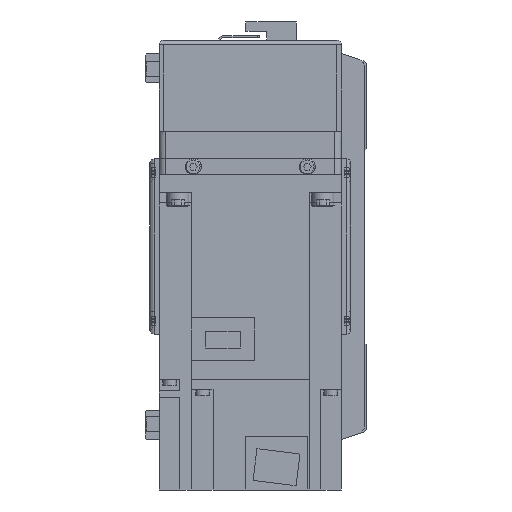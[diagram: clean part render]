
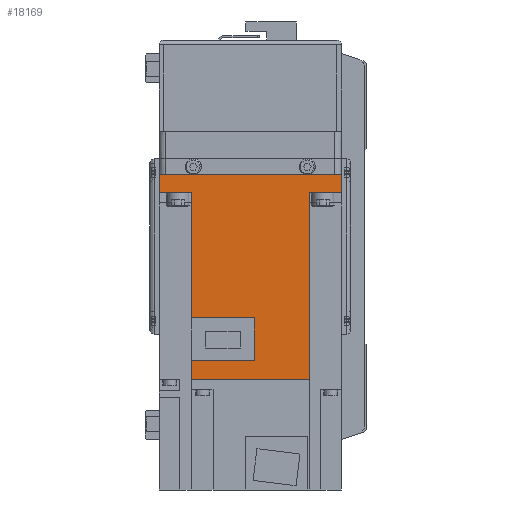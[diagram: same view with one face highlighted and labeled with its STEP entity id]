
A CAD part, left-side view. The second image highlights one B-rep face of the part: STEP entity #18169.
In plain terms, the highlighted planar face has unit normal (-1, 0, 0) as drawn and (1, 0, 0) by its records, which use the part's own axes.
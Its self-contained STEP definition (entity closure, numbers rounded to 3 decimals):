
#2017=ORIENTED_EDGE('',*,*,#7005,.F.);
#2018=ORIENTED_EDGE('',*,*,#7006,.F.);
#2019=ORIENTED_EDGE('',*,*,#7007,.F.);
#2020=ORIENTED_EDGE('',*,*,#7008,.T.);
#2021=ORIENTED_EDGE('',*,*,#7009,.F.);
#2022=ORIENTED_EDGE('',*,*,#7010,.T.);
#2023=ORIENTED_EDGE('',*,*,#7011,.T.);
#2024=ORIENTED_EDGE('',*,*,#7012,.F.);
#2025=ORIENTED_EDGE('',*,*,#7013,.F.);
#2026=ORIENTED_EDGE('',*,*,#7014,.F.);
#2027=ORIENTED_EDGE('',*,*,#7015,.F.);
#2028=ORIENTED_EDGE('',*,*,#7016,.F.);
#7005=EDGE_CURVE('',#9559,#9560,#11365,.T.);
#7006=EDGE_CURVE('',#9561,#9559,#11366,.T.);
#7007=EDGE_CURVE('',#9562,#9561,#11367,.T.);
#7008=EDGE_CURVE('',#9562,#9563,#11368,.T.);
#7009=EDGE_CURVE('',#9564,#9563,#11369,.T.);
#7010=EDGE_CURVE('',#9564,#9565,#11370,.T.);
#7011=EDGE_CURVE('',#9565,#9566,#11371,.T.);
#7012=EDGE_CURVE('',#9567,#9566,#11372,.T.);
#7013=EDGE_CURVE('',#9568,#9567,#11373,.T.);
#7014=EDGE_CURVE('',#9569,#9568,#11374,.T.);
#7015=EDGE_CURVE('',#9570,#9569,#11375,.T.);
#7016=EDGE_CURVE('',#9560,#9570,#11376,.T.);
#9559=VERTEX_POINT('',#27366);
#9560=VERTEX_POINT('',#27367);
#9561=VERTEX_POINT('',#27369);
#9562=VERTEX_POINT('',#27371);
#9563=VERTEX_POINT('',#27373);
#9564=VERTEX_POINT('',#27375);
#9565=VERTEX_POINT('',#27377);
#9566=VERTEX_POINT('',#27379);
#9567=VERTEX_POINT('',#27381);
#9568=VERTEX_POINT('',#27383);
#9569=VERTEX_POINT('',#27385);
#9570=VERTEX_POINT('',#27387);
#11365=LINE('',#27365,#13031);
#11366=LINE('',#27368,#13032);
#11367=LINE('',#27370,#13033);
#11368=LINE('',#27372,#13034);
#11369=LINE('',#27374,#13035);
#11370=LINE('',#27376,#13036);
#11371=LINE('',#27378,#13037);
#11372=LINE('',#27380,#13038);
#11373=LINE('',#27382,#13039);
#11374=LINE('',#27384,#13040);
#11375=LINE('',#27386,#13041);
#11376=LINE('',#27388,#13042);
#13031=VECTOR('',#21813,1000.);
#13032=VECTOR('',#21814,1000.);
#13033=VECTOR('',#21815,1000.);
#13034=VECTOR('',#21816,1000.);
#13035=VECTOR('',#21817,1000.);
#13036=VECTOR('',#21818,1000.);
#13037=VECTOR('',#21819,1000.);
#13038=VECTOR('',#21820,1000.);
#13039=VECTOR('',#21821,1000.);
#13040=VECTOR('',#21822,1000.);
#13041=VECTOR('',#21823,1000.);
#13042=VECTOR('',#21824,1000.);
#14689=EDGE_LOOP('',(#2017,#2018,#2019,#2020,#2021,#2022,#2023,#2024,#2025,
#2026,#2027,#2028));
#16121=FACE_BOUND('',#14689,.T.);
#17446=PLANE('',#19431);
#18169=ADVANCED_FACE('',(#16121),#17446,.F.);
#19431=AXIS2_PLACEMENT_3D('',#27364,#21811,#21812);
#21811=DIRECTION('',(-1.,0.,0.));
#21812=DIRECTION('',(0.,0.,1.));
#21813=DIRECTION('',(0.,0.,1.));
#21814=DIRECTION('',(0.,-1.,0.));
#21815=DIRECTION('',(0.,0.,-1.));
#21816=DIRECTION('',(0.,-1.,0.));
#21817=DIRECTION('',(0.,0.,-1.));
#21818=DIRECTION('',(0.,-1.,0.));
#21819=DIRECTION('',(0.,0.,-1.));
#21820=DIRECTION('',(0.,-1.,0.));
#21821=DIRECTION('',(0.,0.,-1.));
#21822=DIRECTION('',(0.,-1.,0.));
#21823=DIRECTION('',(0.,0.,-1.));
#21824=DIRECTION('',(0.,-1.,0.));
#27364=CARTESIAN_POINT('',(40.,89.8,40.));
#27365=CARTESIAN_POINT('',(40.,81.4,-26.));
#27366=CARTESIAN_POINT('',(40.,81.4,-25.95));
#27367=CARTESIAN_POINT('',(40.,81.4,1.8));
#27368=CARTESIAN_POINT('',(40.,158.,-25.95));
#27369=CARTESIAN_POINT('',(40.,89.8,-25.95));
#27370=CARTESIAN_POINT('',(40.,89.8,40.));
#27371=CARTESIAN_POINT('',(40.,89.8,25.95));
#27372=CARTESIAN_POINT('',(40.,158.,25.95));
#27373=CARTESIAN_POINT('',(40.,8.,25.95));
#27374=CARTESIAN_POINT('',(40.,8.,40.));
#27375=CARTESIAN_POINT('',(40.,8.,40.));
#27376=CARTESIAN_POINT('',(40.,89.8,40.));
#27377=CARTESIAN_POINT('',(40.,0.,40.));
#27378=CARTESIAN_POINT('',(40.,0.,40.));
#27379=CARTESIAN_POINT('',(40.,0.,-40.));
#27380=CARTESIAN_POINT('',(40.,89.8,-40.));
#27381=CARTESIAN_POINT('',(40.,8.,-40.));
#27382=CARTESIAN_POINT('',(40.,8.,40.));
#27383=CARTESIAN_POINT('',(40.,8.,-25.95));
#27384=CARTESIAN_POINT('',(40.,158.,-25.95));
#27385=CARTESIAN_POINT('',(40.,62.8,-25.95));
#27386=CARTESIAN_POINT('',(40.,62.8,1.8));
#27387=CARTESIAN_POINT('',(40.,62.8,1.8));
#27388=CARTESIAN_POINT('',(40.,81.4,1.8));
